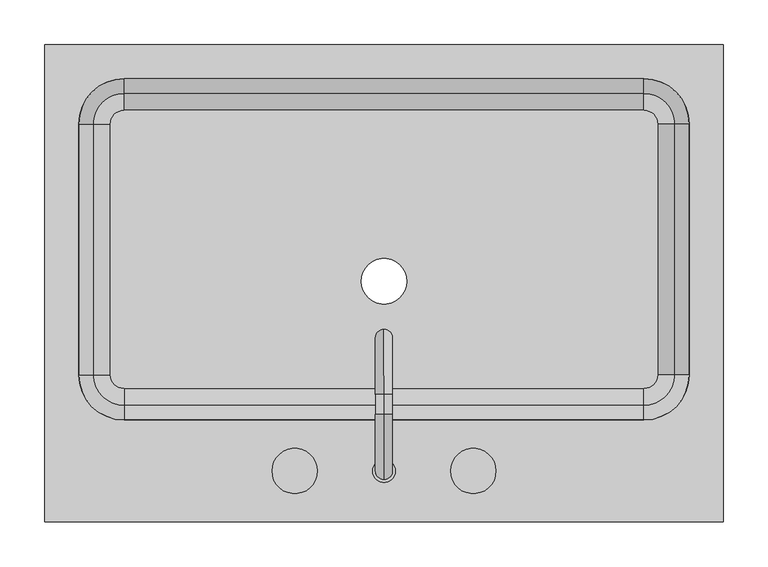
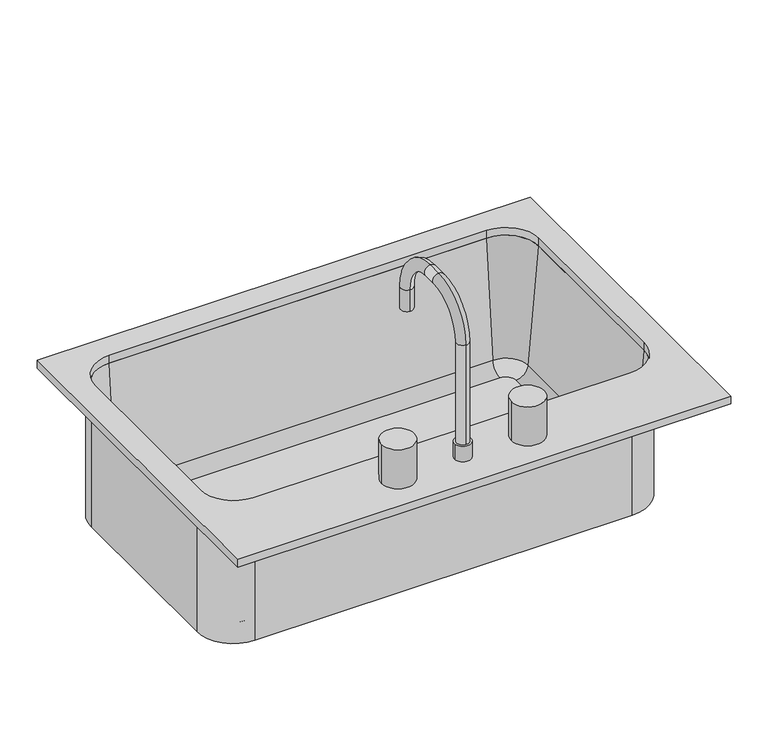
"""IFC4 building model written with IfcOpenShell, lengths in millimetres: flow terminal geometry, Кухонная мойка-Одиночная : 760 x 535 мм."""

from ifc_helpers import new_model, si_unit, point, frame, frame_2d, origin, place, context, project, spatial, polyline, circle_curve, ellipse_curve, trimmed, segment, composite_curve, outline, extrude, source, transform, mapped, element, save
from ifc_brep_helpers import plane_surface, cylinder_surface, revolved_surface, advanced_brep


def flow_terminal_b3a6edb1(model_context):
    return source(origin(), model_context, "Body", "SolidModel", [
        advanced_brep(
        [(363.9392406, -104.7454011, 684.1), (363.9392406, -104.7454011, 900.0), (306.7892406, -161.8954011, 900.0), (306.7892406, -161.8954011, 684.1), (-275.4107594, -161.8954011, 684.1), (-332.5607594, -104.7454011, 684.1), (-332.5607594, 176.2545989, 684.1), (-275.4107594, 233.4045989, 684.1), (306.7892406, 233.4045989, 684.1), (363.9392406, 176.2545989, 684.1), (-9.7107594, 0.0, 684.1), (41.0892406, 0.0, 684.1), (322.0776588, -104.7454011, 693.625), (322.0776588, 176.2545989, 693.625), (306.7892406, 191.5430171, 693.625), (-275.4107594, 191.5430171, 693.625), (-290.6991776, 176.2545989, 693.625), (-290.6991776, -104.7454011, 693.625), (-275.4107594, -120.0338193, 693.625), (306.7892406, -120.0338193, 693.625), (-9.7107594, 0.0, 693.625), (41.0892406, 0.0, 693.625), (306.7892406, -139.0113283, 711.0146831), (341.0551678, -104.7454011, 711.0146831), (306.7892406, -155.5454011, 900.0), (357.5892406, -104.7454011, 900.0), (363.9392406, 176.2545989, 900.0), (341.0551678, 176.2545989, 711.0146831), (357.5892406, 176.2545989, 900.0), (306.7892406, 233.4045989, 900.0), (306.7892406, 210.5205261, 711.0146831), (306.7892406, 227.0545989, 900.0), (-275.4107594, 233.4045989, 900.0), (-275.4107594, 210.5205261, 711.0146831), (-275.4107594, 227.0545989, 900.0), (-332.5607594, 176.2545989, 900.0), (-309.6766866, 176.2545989, 711.0146831), (-326.2107594, 176.2545989, 900.0), (-332.5607594, -104.7454011, 900.0), (-309.6766866, -104.7454011, 711.0146831), (-326.2107594, -104.7454011, 900.0), (-275.4107594, -161.8954011, 900.0), (-275.4107594, -139.0113283, 711.0146831), (-275.4107594, -155.5454011, 900.0)],
        [
            (0, 1),
            (1, 2, circle_curve(frame((306.7892406, -104.7454011, 900.0), z_axis=(0.0, 0.0, -1.0), x_axis=(0.0, -1.0, 0.0)), 57.15)),
            (2, 3),
            (3, 0, circle_curve(frame((306.7892406, -104.7454011, 684.1), z_axis=(0.0, 0.0, 1.0), x_axis=(0.0, -1.0, 0.0)), 57.15)),
            (3, 4),
            (4, 5, circle_curve(frame((-275.4107594, -104.7454011, 684.1), z_axis=(0.0, 0.0, -1.0), x_axis=(-1.0, 0.0, 0.0)), 57.15)),
            (5, 6),
            (6, 7, circle_curve(frame((-275.4107594, 176.2545989, 684.1), z_axis=(0.0, 0.0, -1.0), x_axis=(0.0, 1.0, 0.0)), 57.15)),
            (7, 8),
            (8, 9, circle_curve(frame((306.7892406, 176.2545989, 684.1), z_axis=(0.0, 0.0, -1.0), x_axis=(1.0, 0.0, 0.0)), 57.15)),
            (9, 0),
            (10, 11, circle_curve(frame((15.6892406, 0.0, 684.1), z_axis=(0.0, 0.0, 1.0), x_axis=(1.0, 0.0, 0.0)), 25.4)),
            (11, 10, circle_curve(frame((15.6892406, 0.0, 684.1), z_axis=(0.0, 0.0, 1.0), x_axis=(1.0, 0.0, 0.0)), 25.4)),
            (12, 13),
            (13, 14, circle_curve(frame((306.7892406, 176.2545989, 693.625), z_axis=(0.0, 0.0, 1.0), x_axis=(1.0, 0.0, 0.0)), 15.2884182)),
            (14, 15),
            (15, 16, circle_curve(frame((-275.4107594, 176.2545989, 693.625), z_axis=(0.0, 0.0, 1.0), x_axis=(0.0, 1.0, 0.0)), 15.2884182)),
            (16, 17),
            (17, 18, circle_curve(frame((-275.4107594, -104.7454011, 693.625), z_axis=(0.0, 0.0, 1.0), x_axis=(-1.0, 0.0, 0.0)), 15.2884182)),
            (18, 19),
            (19, 12, circle_curve(frame((306.7892406, -104.7454011, 693.625), z_axis=(0.0, 0.0, 1.0), x_axis=(0.0, -1.0, 0.0)), 15.2884182)),
            (20, 21, circle_curve(frame((15.6892406, 0.0, 693.625), z_axis=(0.0, 0.0, -1.0), x_axis=(1.0, 0.0, 0.0)), 25.4)),
            (21, 20, circle_curve(frame((15.6892406, 0.0, 693.625), z_axis=(0.0, 0.0, -1.0), x_axis=(1.0, 0.0, 0.0)), 25.4)),
            (19, 22, circle_curve(frame((306.7892406, -120.0338193, 712.675), z_axis=(-1.0, 0.0, 0.0), x_axis=(0.0, -1.0, 0.0)), 19.05)),
            (22, 23, circle_curve(frame((306.7892406, -104.7454011, 711.0146831), z_axis=(0.0, 0.0, 1.0), x_axis=(0.0, -1.0, 0.0)), 34.2659272)),
            (23, 12, circle_curve(frame((322.0776588, -104.7454011, 712.675), z_axis=(0.0, 1.0, 0.0), x_axis=(1.0, 0.0, 0.0)), 19.05)),
            (22, 24),
            (24, 25, circle_curve(frame((306.7892406, -104.7454011, 900.0), z_axis=(0.0, 0.0, 1.0), x_axis=(0.0, -1.0, 0.0)), 50.8)),
            (25, 23),
            (1, 25),
            (24, 2),
            (9, 26),
            (26, 1),
            (23, 27),
            (27, 13, circle_curve(frame((322.0776588, 176.2545989, 712.675), z_axis=(0.0, 1.0, 0.0), x_axis=(1.0, 0.0, 0.0)), 19.05)),
            (25, 28),
            (28, 27),
            (26, 28),
            (8, 29),
            (29, 26, circle_curve(frame((306.7892406, 176.2545989, 900.0), z_axis=(0.0, 0.0, -1.0), x_axis=(1.0, 0.0, 0.0)), 57.15)),
            (27, 30, circle_curve(frame((306.7892406, 176.2545989, 711.0146831), z_axis=(0.0, 0.0, 1.0), x_axis=(1.0, 0.0, 0.0)), 34.2659272)),
            (30, 14, circle_curve(frame((306.7892406, 191.5430171, 712.675), z_axis=(-1.0, 0.0, 0.0), x_axis=(0.0, 1.0, 0.0)), 19.05)),
            (28, 31, circle_curve(frame((306.7892406, 176.2545989, 900.0), z_axis=(0.0, 0.0, 1.0), x_axis=(1.0, 0.0, 0.0)), 50.8)),
            (31, 30),
            (29, 31),
            (7, 32),
            (32, 29),
            (30, 33),
            (33, 15, circle_curve(frame((-275.4107594, 191.5430171, 712.675), z_axis=(-1.0, 0.0, 0.0), x_axis=(0.0, 1.0, 0.0)), 19.05)),
            (31, 34),
            (34, 33),
            (32, 34),
            (6, 35),
            (35, 32, circle_curve(frame((-275.4107594, 176.2545989, 900.0), z_axis=(0.0, 0.0, -1.0), x_axis=(0.0, 1.0, 0.0)), 57.15)),
            (33, 36, circle_curve(frame((-275.4107594, 176.2545989, 711.0146831), z_axis=(0.0, 0.0, 1.0), x_axis=(0.0, 1.0, 0.0)), 34.2659272)),
            (36, 16, circle_curve(frame((-290.6991776, 176.2545989, 712.675), z_axis=(0.0, -1.0, 0.0), x_axis=(-1.0, 0.0, 0.0)), 19.05)),
            (34, 37, circle_curve(frame((-275.4107594, 176.2545989, 900.0), z_axis=(0.0, 0.0, 1.0), x_axis=(0.0, 1.0, 0.0)), 50.8)),
            (37, 36),
            (35, 37),
            (5, 38),
            (38, 35),
            (36, 39),
            (39, 17, circle_curve(frame((-290.6991776, -104.7454011, 712.675), z_axis=(0.0, -1.0, 0.0), x_axis=(-1.0, 0.0, 0.0)), 19.05)),
            (37, 40),
            (40, 39),
            (38, 40),
            (4, 41),
            (41, 38, circle_curve(frame((-275.4107594, -104.7454011, 900.0), z_axis=(0.0, 0.0, -1.0), x_axis=(-1.0, 0.0, 0.0)), 57.15)),
            (39, 42, circle_curve(frame((-275.4107594, -104.7454011, 711.0146831), z_axis=(0.0, 0.0, 1.0), x_axis=(-1.0, 0.0, 0.0)), 34.2659272)),
            (42, 18, circle_curve(frame((-275.4107594, -120.0338193, 712.675), z_axis=(1.0, 0.0, 0.0), x_axis=(0.0, -1.0, 0.0)), 19.05)),
            (40, 43, circle_curve(frame((-275.4107594, -104.7454011, 900.0), z_axis=(0.0, 0.0, 1.0), x_axis=(-1.0, 0.0, 0.0)), 50.8)),
            (43, 42),
            (41, 43),
            (2, 41),
            (42, 22),
            (43, 24),
            (21, 11),
            (10, 20),
        ],
        [
            cylinder_surface(frame((306.7892406, -104.7454011, 0.0), z_axis=(0.0, 0.0, -1.0), x_axis=(0.0, -1.0, 0.0)), 57.15),
            plane_surface(frame((306.7892406, -104.7454011, 684.1), z_axis=(0.0, 0.0, -1.0), x_axis=(0.0, -1.0, 0.0))),
            plane_surface(frame((306.7892406, -104.7454011, 693.625), z_axis=(0.0, 0.0, 1.0), x_axis=(0.0, -1.0, 0.0))),
            revolved_surface(trimmed(ellipse_curve(frame((306.7892406, -120.0338193, 712.675), z_axis=(-1.0, 0.0, 0.0), x_axis=(0.0, -1.0, 0.0)), 19.05, 19.05), [point((306.7892406, -120.0338193, 693.625))], [point((306.7892406, -139.0113283, 711.0146831))], True, "CARTESIAN"), (306.7892406, -104.7454011, 0.0), (0.0, 0.0, -1.0)),
            revolved_surface(polyline([(306.7892406, -139.0113283, 711.0146831), (306.7892406, -155.5454011, 900.0)]), (306.7892406, -104.7454011, 0.0), (0.0, 0.0, -1.0)),
            plane_surface(frame((306.7892406, -104.7454011, 900.0), z_axis=(0.0, 0.0, 1.0), x_axis=(0.0, -1.0, 0.0))),
            plane_surface(frame((363.9392406, -104.7454011, 900.0), z_axis=(1.0, 0.0, 0.0), x_axis=(0.0, 1.0, 0.0))),
            revolved_surface(polyline([(341.1276588, 176.25459890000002, 712.675), (341.1276588, -104.7454011, 712.675)]), (322.0776588, -104.7454011, 712.675), (0.0, 1.0, 0.0)),
            plane_surface(frame((341.0551678, -104.7454011, 711.0146831), z_axis=(-0.9961946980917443, 0.0, 0.08715574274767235), x_axis=(0.0, 1.0, 0.0))),
            plane_surface(frame((357.5892406, -104.7454011, 900.0), z_axis=(0.0, 0.0, 1.0), x_axis=(0.0, 1.0, 0.0))),
            cylinder_surface(frame((306.7892406, 176.2545989, 0.0), z_axis=(0.0, 0.0, -1.0), x_axis=(1.0, 0.0, 0.0)), 57.15),
            revolved_surface(trimmed(ellipse_curve(frame((322.0776588, 176.2545989, 712.675), z_axis=(0.0, -1.0, 0.0), x_axis=(1.0, 0.0, 0.0)), 19.05, 19.05), [point((322.0776588, 176.2545989, 693.625))], [point((341.0551678, 176.2545989, 711.0146831))], True, "CARTESIAN"), (306.7892406, 176.2545989, 0.0), (0.0, 0.0, -1.0)),
            revolved_surface(polyline([(341.0551678, 176.2545989, 711.0146831), (357.5892406, 176.2545989, 900.0)]), (306.7892406, 176.2545989, 0.0), (0.0, 0.0, -1.0)),
            plane_surface(frame((306.7892406, 176.2545989, 900.0), z_axis=(0.0, 0.0, 1.0), x_axis=(1.0, 0.0, 0.0))),
            plane_surface(frame((306.7892406, 233.4045989, 900.0), z_axis=(0.0, 1.0, 0.0), x_axis=(-1.0, 0.0, 0.0))),
            revolved_surface(polyline([(-275.4107594, 210.5930171, 712.675), (306.7892406, 210.5930171, 712.675)]), (306.7892406, 191.5430171, 712.675), (-1.0, 0.0, 0.0)),
            plane_surface(frame((306.7892406, 210.5205261, 711.0146831), z_axis=(0.0, -0.9961946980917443, 0.08715574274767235), x_axis=(-1.0, 0.0, 0.0))),
            plane_surface(frame((306.7892406, 227.0545989, 900.0), z_axis=(0.0, 0.0, 1.0), x_axis=(-1.0, 0.0, 0.0))),
            cylinder_surface(frame((-275.4107594, 176.2545989, 0.0), z_axis=(0.0, 0.0, -1.0), x_axis=(0.0, 1.0, 0.0)), 57.15),
            revolved_surface(trimmed(ellipse_curve(frame((-275.4107594, 191.5430171, 712.675), z_axis=(1.0, 0.0, 0.0), x_axis=(0.0, 1.0, 0.0)), 19.05, 19.05), [point((-275.4107594, 191.5430171, 693.625))], [point((-275.4107594, 210.5205261, 711.0146831))], True, "CARTESIAN"), (-275.4107594, 176.2545989, 0.0), (0.0, 0.0, -1.0)),
            revolved_surface(polyline([(-275.4107594, 210.5205261, 711.0146831), (-275.4107594, 227.0545989, 900.0)]), (-275.4107594, 176.2545989, 0.0), (0.0, 0.0, -1.0)),
            plane_surface(frame((-275.4107594, 176.2545989, 900.0), z_axis=(0.0, 0.0, 1.0), x_axis=(0.0, 1.0, 0.0))),
            plane_surface(frame((-332.5607594, 176.2545989, 900.0), z_axis=(-1.0, 0.0, 0.0), x_axis=(0.0, -1.0, 0.0))),
            revolved_surface(polyline([(-309.7491776, -104.74540110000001, 712.675), (-309.7491776, 176.2545989, 712.675)]), (-290.6991776, 176.2545989, 712.675), (0.0, -1.0, 0.0)),
            plane_surface(frame((-309.6766866, 176.2545989, 711.0146831), z_axis=(0.9961946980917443, 0.0, 0.08715574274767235), x_axis=(0.0, -1.0, 0.0))),
            plane_surface(frame((-326.2107594, 176.2545989, 900.0), z_axis=(0.0, 0.0, 1.0), x_axis=(0.0, -1.0, 0.0))),
            cylinder_surface(frame((-275.4107594, -104.7454011, 0.0), z_axis=(0.0, 0.0, -1.0), x_axis=(-1.0, 0.0, 0.0)), 57.15),
            revolved_surface(trimmed(ellipse_curve(frame((-290.6991776, -104.7454011, 712.675), z_axis=(0.0, 1.0, 0.0), x_axis=(-1.0, 0.0, 0.0)), 19.05, 19.05), [point((-290.6991776, -104.7454011, 693.625))], [point((-309.6766866, -104.7454011, 711.0146831))], True, "CARTESIAN"), (-275.4107594, -104.7454011, 0.0), (0.0, 0.0, -1.0)),
            revolved_surface(polyline([(-309.6766866, -104.7454011, 711.0146831), (-326.2107594, -104.7454011, 900.0)]), (-275.4107594, -104.7454011, 0.0), (0.0, 0.0, -1.0)),
            plane_surface(frame((-275.4107594, -104.7454011, 900.0), z_axis=(0.0, 0.0, 1.0), x_axis=(-1.0, 0.0, 0.0))),
            plane_surface(frame((-275.4107594, -161.8954011, 900.0), z_axis=(0.0, -1.0, 0.0), x_axis=(1.0, 0.0, 0.0))),
            revolved_surface(polyline([(306.7892406, -139.08381930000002, 712.675), (-275.4107594, -139.08381930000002, 712.675)]), (-275.4107594, -120.0338193, 712.675), (1.0, 0.0, 0.0)),
            plane_surface(frame((-275.4107594, -139.0113283, 711.0146831), z_axis=(0.0, 0.9961946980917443, 0.08715574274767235), x_axis=(1.0, 0.0, 0.0))),
            plane_surface(frame((-275.4107594, -155.5454011, 900.0), z_axis=(0.0, 0.0, 1.0), x_axis=(1.0, 0.0, 0.0))),
            revolved_surface(polyline([(41.0892406, 0.0, 684.1), (41.0892406, 0.0, 693.625)]), (15.6892406, 0.0, 0.0), (0.0, 0.0, -1.0)),
        ],
        [
            (0, [[1, 2, 3, 4]]),
            (1, [[5, 6, 7, 8, 9, 10, 11, -4], [12, 13]]),
            (2, [[14, 15, 16, 17, 18, 19, 20, 21], [22, 23]]),
            (3, [[24, 25, 26, -21]]),
            (4, [[27, 28, 29, -25]]),
            (5, [[30, -28, 31, -2]]),
            (6, [[-11, 32, 33, -1]]),
            (7, [[34, 35, -14, -26]]),
            (8, [[36, 37, -34, -29]]),
            (9, [[-33, 38, -36, -30]]),
            (10, [[-10, 39, 40, -32]]),
            (11, [[41, 42, -15, -35]]),
            (12, [[43, 44, -41, -37]]),
            (13, [[-40, 45, -43, -38]]),
            (14, [[-9, 46, 47, -39]]),
            (15, [[48, 49, -16, -42]]),
            (16, [[50, 51, -48, -44]]),
            (17, [[-47, 52, -50, -45]]),
            (18, [[-8, 53, 54, -46]]),
            (19, [[55, 56, -17, -49]]),
            (20, [[57, 58, -55, -51]]),
            (21, [[-54, 59, -57, -52]]),
            (22, [[-7, 60, 61, -53]]),
            (23, [[62, 63, -18, -56]]),
            (24, [[64, 65, -62, -58]]),
            (25, [[-61, 66, -64, -59]]),
            (26, [[-6, 67, 68, -60]]),
            (27, [[69, 70, -19, -63]]),
            (28, [[71, 72, -69, -65]]),
            (29, [[-68, 73, -71, -66]]),
            (30, [[74, -67, -5, -3]]),
            (31, [[-20, -70, 75, -24]]),
            (32, [[-75, -72, 76, -27]]),
            (33, [[-76, -73, -74, -31]]),
            (34, [[77, -12, 78, -23]]),
            (34, [[-78, -13, -77, -22]]),
        ],
    ),
        advanced_brep(
        [(2.9892406, -212.6954011, 938.1), (28.3892406, -212.6954011, 938.1), (15.6892406, -222.2204011, 938.1), (15.6892406, -203.1704011, 938.1), (2.9892406, -212.6954011, 912.7), (28.3892406, -212.6954011, 912.7), (15.6892406, -222.2204011, 1100.025), (15.6892406, -203.1704011, 1100.025), (15.6892406, -149.1954011, 1154.0), (15.6892406, -149.1954011, 1173.05), (15.6892406, -126.9704011, 1154.0), (15.6892406, -126.9704011, 1173.05), (15.6892406, -72.9954011, 1100.025), (15.6892406, -53.9454011, 1100.025), (15.6892406, -53.9454011, 1065.1), (15.6892406, -72.9954011, 1065.1)],
        [
            (0, 1, circle_curve(frame((15.6892406, -212.6954011, 938.1), z_axis=(0.0, 0.0, 1.0), x_axis=(1.0, 0.0, 0.0)), 12.7)),
            (1, 0, circle_curve(frame((15.6892406, -212.6954011, 938.1), z_axis=(0.0, 0.0, 1.0), x_axis=(1.0, 0.0, 0.0)), 12.7)),
            (2, 3, circle_curve(frame((15.6892406, -212.6954011, 938.1), z_axis=(0.0, 0.0, -1.0), x_axis=(0.0, 1.0, 0.0)), 9.525)),
            (3, 2, circle_curve(frame((15.6892406, -212.6954011, 938.1), z_axis=(0.0, 0.0, -1.0), x_axis=(0.0, 1.0, 0.0)), 9.525)),
            (4, 5, circle_curve(frame((15.6892406, -212.6954011, 912.7), z_axis=(0.0, 0.0, -1.0), x_axis=(1.0, 0.0, 0.0)), 12.7)),
            (5, 4, circle_curve(frame((15.6892406, -212.6954011, 912.7), z_axis=(0.0, 0.0, -1.0), x_axis=(1.0, 0.0, 0.0)), 12.7)),
            (1, 5),
            (4, 0),
            (6, 2),
            (3, 7),
            (7, 6, circle_curve(frame((15.6892406, -212.6954011, 1100.025), z_axis=(0.0, 0.0, -1.0), x_axis=(0.0, 1.0, 0.0)), 9.525)),
            (6, 7, circle_curve(frame((15.6892406, -212.6954011, 1100.025), z_axis=(0.0, 0.0, -1.0), x_axis=(0.0, 1.0, 0.0)), 9.525)),
            (7, 8, circle_curve(frame((15.6892406, -149.1954011, 1100.025), z_axis=(-1.0, 0.0, 0.0), x_axis=(0.0, -1.0, 0.0)), 53.975)),
            (8, 9, circle_curve(frame((15.6892406, -149.1954011, 1163.525), z_axis=(0.0, -1.0, 0.0), x_axis=(0.0, 0.0, -1.0)), 9.525)),
            (9, 6, circle_curve(frame((15.6892406, -149.1954011, 1100.025), z_axis=(1.0, 0.0, 0.0), x_axis=(0.0, -1.0, 0.0)), 73.025)),
            (9, 8, circle_curve(frame((15.6892406, -149.1954011, 1163.525), z_axis=(0.0, -1.0, 0.0), x_axis=(0.0, 0.0, -1.0)), 9.525)),
            (8, 10),
            (10, 11, circle_curve(frame((15.6892406, -126.9704011, 1163.525), z_axis=(0.0, -1.0, 0.0), x_axis=(0.0, 0.0, -1.0)), 9.525)),
            (11, 9),
            (11, 10, circle_curve(frame((15.6892406, -126.9704011, 1163.525), z_axis=(0.0, -1.0, 0.0), x_axis=(0.0, 0.0, -1.0)), 9.525)),
            (10, 12, circle_curve(frame((15.6892406, -126.9704011, 1100.025), z_axis=(-1.0, 0.0, 0.0), x_axis=(0.0, 0.0, 1.0)), 53.975)),
            (12, 13, circle_curve(frame((15.6892406, -63.4704011, 1100.025), z_axis=(0.0, 0.0, 1.0), x_axis=(0.0, -1.0, 0.0)), 9.525)),
            (13, 11, circle_curve(frame((15.6892406, -126.9704011, 1100.025), z_axis=(1.0, 0.0, 0.0), x_axis=(0.0, 0.0, 1.0)), 73.025)),
            (13, 12, circle_curve(frame((15.6892406, -63.4704011, 1100.025), z_axis=(0.0, 0.0, 1.0), x_axis=(0.0, -1.0, 0.0)), 9.525)),
            (14, 15, circle_curve(frame((15.6892406, -63.4704011, 1065.1), z_axis=(0.0, 0.0, -1.0), x_axis=(0.0, -1.0, 0.0)), 9.525)),
            (15, 14, circle_curve(frame((15.6892406, -63.4704011, 1065.1), z_axis=(0.0, 0.0, -1.0), x_axis=(0.0, -1.0, 0.0)), 9.525)),
            (12, 15),
            (14, 13),
        ],
        [
            plane_surface(frame((28.3892406, -212.6954011, 938.1), z_axis=(0.0, 0.0, 1.0), x_axis=(0.0, -1.0, 0.0))),
            plane_surface(frame((28.3892406, -212.6954011, 912.7), z_axis=(0.0, 0.0, -1.0), x_axis=(0.0, 1.0, 0.0))),
            cylinder_surface(frame((15.6892406, -212.6954011, 912.7), z_axis=(0.0, 0.0, 1.0), x_axis=(1.0, 0.0, 0.0)), 12.7),
            cylinder_surface(frame((15.6892406, -212.6954011, 912.7), z_axis=(0.0, 0.0, -1.0), x_axis=(0.0, 1.0, 0.0)), 9.525),
            revolved_surface(trimmed(ellipse_curve(frame((15.6892406, -212.6954011, 1100.025), z_axis=(0.0, 0.0, 1.0), x_axis=(0.0, 1.0, 0.0)), 9.525, 9.525), [point((15.6892406, -222.2204011, 1100.025))], [point((15.6892406, -203.1704011, 1100.025))], True, "CARTESIAN"), (15.6892406, -149.1954011, 1100.025), (1.0, 0.0, 0.0)),
            revolved_surface(trimmed(ellipse_curve(frame((15.6892406, -212.6954011, 1100.025), z_axis=(0.0, 0.0, 1.0), x_axis=(0.0, 1.0, 0.0)), 9.525, 9.525), [point((15.6892406, -203.1704011, 1100.025))], [point((15.6892406, -222.2204011, 1100.025))], True, "CARTESIAN"), (15.6892406, -149.1954011, 1100.025), (1.0, 0.0, 0.0)),
            cylinder_surface(frame((15.6892406, -149.1954011, 1163.525), z_axis=(0.0, -1.0, 0.0), x_axis=(0.0, 0.0, -1.0)), 9.525),
            revolved_surface(trimmed(ellipse_curve(frame((15.6892406, -126.9704011, 1163.525), z_axis=(0.0, 1.0, 0.0), x_axis=(0.0, 0.0, -1.0)), 9.525, 9.525), [point((15.6892406, -126.9704011, 1173.05))], [point((15.6892406, -126.9704011, 1154.0))], True, "CARTESIAN"), (15.6892406, -126.9704011, 1100.025), (1.0, 0.0, 0.0)),
            revolved_surface(trimmed(ellipse_curve(frame((15.6892406, -126.9704011, 1163.525), z_axis=(0.0, 1.0, 0.0), x_axis=(0.0, 0.0, -1.0)), 9.525, 9.525), [point((15.6892406, -126.9704011, 1154.0))], [point((15.6892406, -126.9704011, 1173.05))], True, "CARTESIAN"), (15.6892406, -126.9704011, 1100.025), (1.0, 0.0, 0.0)),
            plane_surface(frame((15.6892406, -53.9454011, 1065.1), z_axis=(0.0, 0.0, -1.0), x_axis=(-1.0, 0.0, 0.0))),
            cylinder_surface(frame((15.6892406, -63.4704011, 1100.025), z_axis=(0.0, 0.0, 1.0), x_axis=(0.0, -1.0, 0.0)), 9.525),
        ],
        [
            (0, [[1, 2], [3, 4]]),
            (1, [[5, 6]]),
            (2, [[7, -5, 8, -2]]),
            (2, [[-8, -6, -7, -1]]),
            (3, [[9, -4, 10, 11]]),
            (3, [[-10, -3, -9, 12]]),
            (4, [[13, 14, 15, -11]]),
            (5, [[-15, 16, -13, -12]]),
            (6, [[17, 18, 19, -14]]),
            (6, [[-19, 20, -17, -16]]),
            (7, [[21, 22, 23, -18]]),
            (8, [[-23, 24, -21, -20]]),
            (9, [[25, 26]]),
            (10, [[27, -25, 28, -22]]),
            (10, [[-28, -26, -27, -24]]),
        ],
    ),
        extrude(outline(composite_curve([segment(trimmed(circle_curve(frame_2d((-84.3107594, -212.6954011)), 25.4), [point((-109.7107594, -212.6954011))], [point((-58.9107594, -212.6954011))], False, "CARTESIAN"), True, "CONTINUOUS"), segment(trimmed(circle_curve(frame_2d((-84.3107594, -212.6954011)), 25.4), [point((-58.9107594, -212.6954011))], [point((-109.7107594, -212.6954011))], False, "CARTESIAN"), True, "CONTINUOUS")], self_intersect=False)), frame((0.0, 0.0, 912.7), z_axis=(0.0, 0.0, 1.0), x_axis=(1.0, 0.0, 0.0)), (0.0, 0.0, 1.0), 63.5),
        extrude(outline(composite_curve([segment(trimmed(circle_curve(frame_2d((115.6892406, -212.6954011)), 25.4), [point((90.2892406, -212.6954011))], [point((141.0892406, -212.6954011))], False, "CARTESIAN"), True, "CONTINUOUS"), segment(trimmed(circle_curve(frame_2d((115.6892406, -212.6954011)), 25.4), [point((141.0892406, -212.6954011))], [point((90.2892406, -212.6954011))], False, "CARTESIAN"), True, "CONTINUOUS")], self_intersect=False)), frame((0.0, 0.0, 912.7), z_axis=(0.0, 0.0, 1.0), x_axis=(1.0, 0.0, 0.0)), (0.0, 0.0, 1.0), 63.5),
        extrude(outline(polyline([(395.6892406, -269.8454011), (-364.3107594, -269.8454011), (-364.3107594, 265.1545989), (395.6892406, 265.1545989), (395.6892406, -269.8454011)]), holes=[composite_curve([segment(trimmed(circle_curve(frame_2d((306.7892406, -104.7454011)), 50.8), [point((306.7892406, -155.5454011))], [point((357.5892406, -104.7454011))], True, "CARTESIAN"), True, "CONTINUOUS"), segment(polyline([(357.5892406, -104.7454011), (357.5892406, 176.2545989)]), True, "CONTINUOUS"), segment(trimmed(circle_curve(frame_2d((306.7892406, 176.2545989)), 50.8), [point((357.5892406, 176.2545989))], [point((306.7892406, 227.0545989))], True, "CARTESIAN"), True, "CONTINUOUS"), segment(polyline([(306.7892406, 227.0545989), (-275.4107594, 227.0545989)]), True, "CONTINUOUS"), segment(trimmed(circle_curve(frame_2d((-275.4107594, 176.2545989)), 50.8), [point((-275.4107594, 227.0545989))], [point((-326.2107594, 176.2545989))], True, "CARTESIAN"), True, "CONTINUOUS"), segment(polyline([(-326.2107594, 176.2545989), (-326.2107594, -104.7454011)]), True, "CONTINUOUS"), segment(trimmed(circle_curve(frame_2d((-275.4107594, -104.7454011)), 50.8), [point((-326.2107594, -104.7454011))], [point((-275.4107594, -155.5454011))], True, "CARTESIAN"), True, "CONTINUOUS"), segment(polyline([(-275.4107594, -155.5454011), (306.7892406, -155.5454011)]), True, "CONTINUOUS")], self_intersect=False)]), frame((0.0, 0.0, 900.0), z_axis=(0.0, 0.0, 1.0), x_axis=(1.0, 0.0, 0.0)), (0.0, 0.0, 1.0), 12.7),
    ])


if __name__ == "__main__":
    model = new_model("IFC4")
    model_context = context("Model", 3, world=origin())
    ifc_project = project(units=[si_unit("LENGTHUNIT", "METRE", prefix="MILLI")], contexts=[model_context])
    site = spatial("IfcSite", under=ifc_project)
    building = spatial("IfcBuilding", under=site)
    placement = place(None, origin())
    flow_terminal_shape = flow_terminal_b3a6edb1(model_context)
    element("IfcFlowTerminal", 1, ObjectType="Кухонная мойка-Одиночная : 760 x 535 мм", at=placement, inside=building, context=model_context, shape_type="MappedRepresentation", body=[
        mapped(flow_terminal_shape, transform((0.0, 0.0, 0.0), x_axis=(1.0, 0.0, 0.0), y_axis=(0.0, 1.0, 0.0), z_axis=(0.0, 0.0, 1.0))),
    ])
    save(model, "model.ifc")
